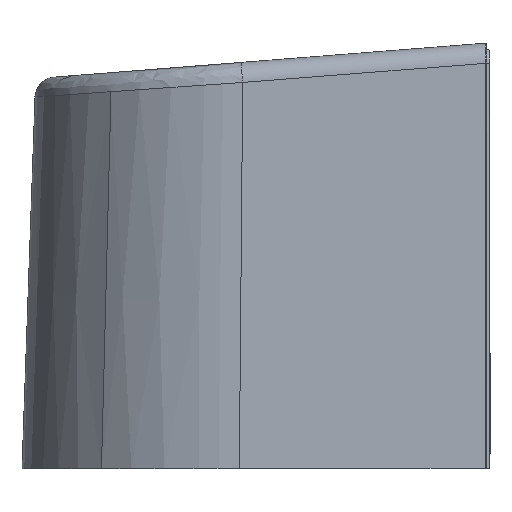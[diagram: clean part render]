
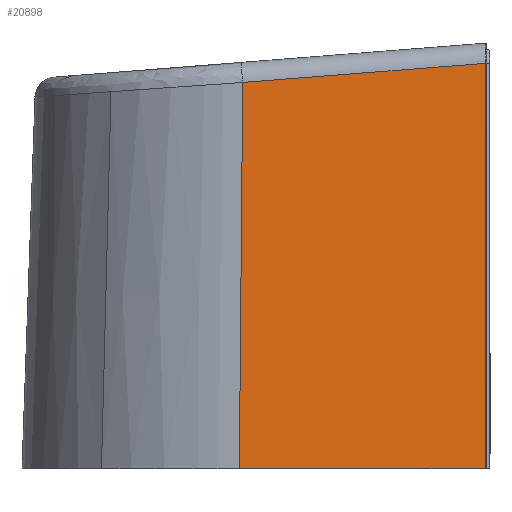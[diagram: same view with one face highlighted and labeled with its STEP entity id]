
A CAD part, left-side view. The second image highlights one B-rep face of the part: STEP entity #20898.
In plain terms, the highlighted planar face has unit normal (-1, 0, 0.026).
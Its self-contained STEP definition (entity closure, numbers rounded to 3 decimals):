
#6896 = LINE ( 'NONE', #12392, #31307 ) ;
#7599 = VERTEX_POINT ( 'NONE', #44055 ) ;
#9251 = EDGE_LOOP ( 'NONE', ( #30994, #17589, #42358, #76636 ) ) ;
#12392 = CARTESIAN_POINT ( 'NONE',  ( -58.131, 36.494, -30.973 ) ) ;
#16857 = PLANE ( 'NONE',  #79381 ) ;
#17589 = ORIENTED_EDGE ( 'NONE', *, *, #74425, .T. ) ;
#20898 = ADVANCED_FACE ( 'NONE', ( #29558 ), #16857, .T. ) ;
#28728 = DIRECTION ( 'NONE',  ( -1., 0., 0.026 ) ) ;
#28962 = CARTESIAN_POINT ( 'NONE',  ( -58.123, 0.7, -30.973 ) ) ;
#29558 = FACE_OUTER_BOUND ( 'NONE', #9251, .T. ) ;
#29749 = CARTESIAN_POINT ( 'NONE',  ( -58.131, 36.494, -30.973 ) ) ;
#30994 = ORIENTED_EDGE ( 'NONE', *, *, #43155, .T. ) ;
#31307 = VECTOR ( 'NONE', #76269, 1000. ) ;
#33028 = VECTOR ( 'NONE', #44157, 1000. ) ;
#36329 = DIRECTION ( 'NONE',  ( 0.026, 0., 1. ) ) ;
#37472 = CARTESIAN_POINT ( 'NONE',  ( -56.658, 36.003, 25.265 ) ) ;
#37823 = LINE ( 'NONE', #62375, #33028 ) ;
#37880 = CARTESIAN_POINT ( 'NONE',  ( -56.578, 0.7, 28.043 ) ) ;
#37913 = VERTEX_POINT ( 'NONE', #50806 ) ;
#42358 = ORIENTED_EDGE ( 'NONE', *, *, #66477, .T. ) ;
#43155 = EDGE_CURVE ( 'NONE', #7599, #37913, #62859, .T. ) ;
#43804 = LINE ( 'NONE', #37472, #62966 ) ;
#44055 = CARTESIAN_POINT ( 'NONE',  ( -56.578, 0.7, 28.043 ) ) ;
#44157 = DIRECTION ( 'NONE',  ( 0.026, 0., 1. ) ) ;
#44217 = DIRECTION ( 'NONE',  ( -0.002, 0.997, -0.078 ) ) ;
#50806 = CARTESIAN_POINT ( 'NONE',  ( -56.658, 36.003, 25.265 ) ) ;
#55914 = VERTEX_POINT ( 'NONE', #28962 ) ;
#57373 = VERTEX_POINT ( 'NONE', #29749 ) ;
#62375 = CARTESIAN_POINT ( 'NONE',  ( -56.485, 0.7, 31.561 ) ) ;
#62859 = LINE ( 'NONE', #37880, #63905 ) ;
#62966 = VECTOR ( 'NONE', #63288, 1000. ) ;
#63288 = DIRECTION ( 'NONE',  ( -0.026, 0.009, -1. ) ) ;
#63905 = VECTOR ( 'NONE', #44217, 1000. ) ;
#66477 = EDGE_CURVE ( 'NONE', #57373, #55914, #6896, .T. ) ;
#71849 = EDGE_CURVE ( 'NONE', #55914, #7599, #37823, .T. ) ;
#73129 = CARTESIAN_POINT ( 'NONE',  ( -56.5, 65.998, 31.562 ) ) ;
#74425 = EDGE_CURVE ( 'NONE', #37913, #57373, #43804, .T. ) ;
#76269 = DIRECTION ( 'NONE',  ( 0., -1., 0. ) ) ;
#76636 = ORIENTED_EDGE ( 'NONE', *, *, #71849, .T. ) ;
#79381 = AXIS2_PLACEMENT_3D ( 'NONE', #73129, #28728, #36329 ) ;
